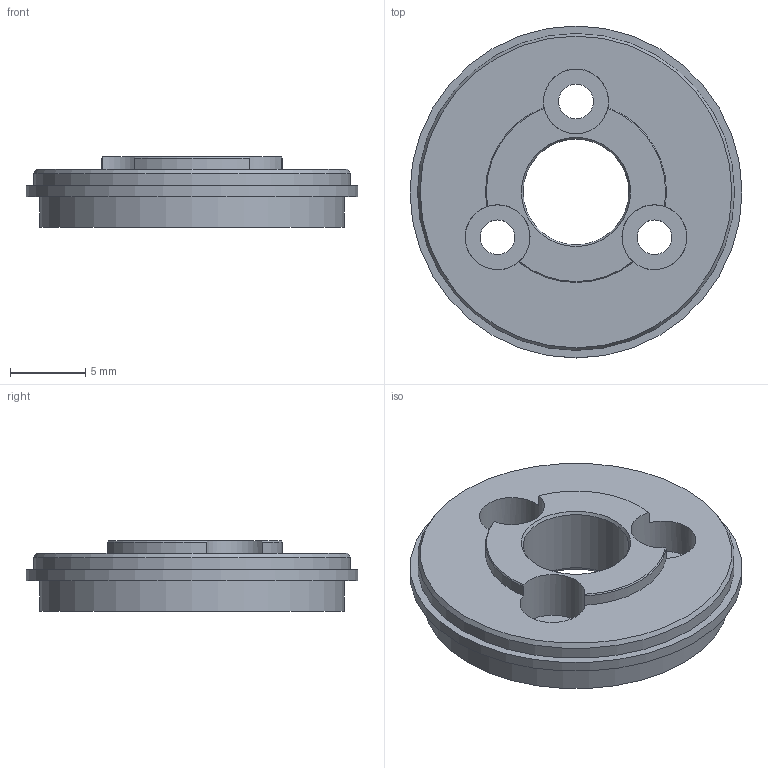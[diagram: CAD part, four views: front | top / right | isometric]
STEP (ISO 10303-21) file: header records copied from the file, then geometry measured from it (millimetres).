
FILE_DESCRIPTION(/* description */ (''),/* implementation_level */ '2;1');
FILE_NAME(/* name */ '22-GPT_flange_a.stp',/* time_stamp */ '2019-07-23T09:09:39+02:00',/* author */ ('DR. FRITZ FAULHABER GmbH & Co. KG'),/* organization */ ('DR. FRITZ FAULHABER GmbH & Co. KG'),/* preprocessor_version */ 'ST-DEVELOPER v16.7',/* originating_system */ 'SIEMENS PLM Software NX 12.0',/* authorisation */ '');
FILE_SCHEMA (('AUTOMOTIVE_DESIGN { 1 0 10303 214 3 1 1 1 }'));
Length unit declared in the file: millimetre
Products named in the file (1): F0010551900-F-416.4923.02
Bounding box: 22 x 22 x 4.7 mm (x, y, z)
Volume: 1075.7 mm3; surface area: 1165.5 mm2
Topology: 1 solids, 1 shells, 27 faces, 67 edges, 45 vertices
Faces by surface type: cylinder 13, plane 8, cone 6
Full cylindrical faces by diameter (mm): 2.3 x3, 4.3 x3, 7 x1, 20.2 x1, 21 x1, 22 x1
Entity records: 742 total; most frequent: DIRECTION 132, CARTESIAN_POINT 131, ORIENTED_EDGE 94, AXIS2_PLACEMENT_3D 63, EDGE_LOOP 51, EDGE_CURVE 47, FACE_BOUND 45, VERTEX_POINT 38
